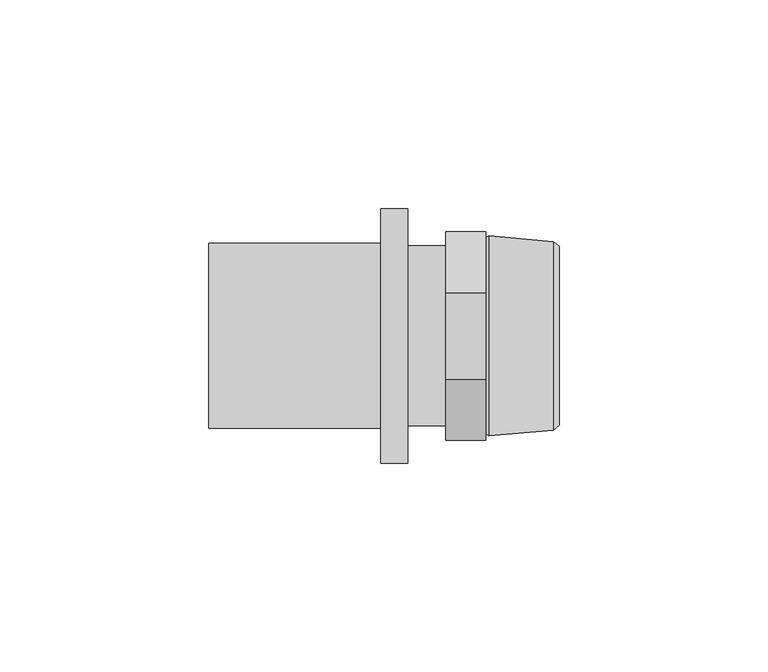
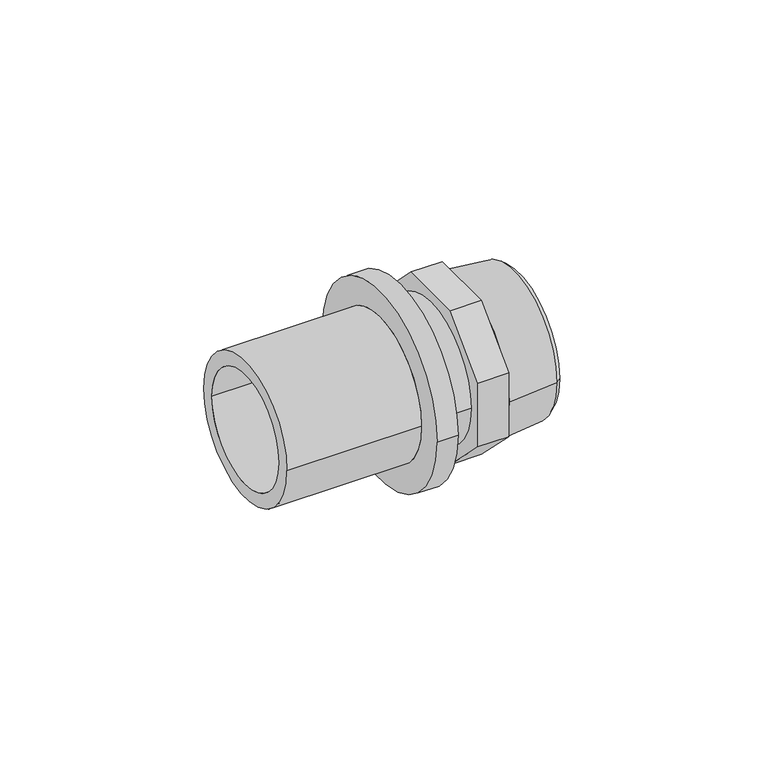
"""IFC4 building model written with IfcOpenShell, lengths in millimetres: pipe fitting geometry, REHAU_RAUTITAN_Adaptor_RX+ stabil, with external thread : REHAU_RAUTITAN_Adaptor_RX+ stabil, with external thread."""

from ifc_helpers import new_model, si_unit, point, frame, origin, origin_2d, place, context, project, spatial, polyline, circle_curve, trimmed, segment, composite_curve, outline, extrude, source, transform, mapped, element, save
from ifc_brep_helpers import plane_surface, cylinder_surface, revolved_surface, advanced_brep


def pipe_fitting_38a4c61e(model_context):
    return source(origin(), model_context, "Body", "SolidModel", [
        advanced_brep(
        [(-56.9, 17.75, 0.0), (-56.9, -17.75, 0.0), (0.0, -17.75, 0.0), (0.0, 17.75, 0.0), (-15.6, 22.15, 0.0), (-15.6, -22.15, 0.0), (-56.9, -22.15, 0.0), (-56.9, 22.15, 0.0), (-9.2, 30.5, 0.0), (-9.2, -30.5, 0.0), (-15.6, -30.5, 0.0), (-15.6, 30.5, 0.0), (0.0, 21.55, 0.0), (0.0, -21.55, 0.0), (-9.2, -21.55, 0.0), (-9.2, 21.55, 0.0)],
        [
            (0, 1, circle_curve(frame((-56.9, 0.0, 0.0), z_axis=(-1.0, 0.0, 0.0), x_axis=(0.0, -1.0, 0.0)), 17.75)),
            (1, 2),
            (2, 3, circle_curve(frame((0.0, 0.0, 0.0), z_axis=(1.0, 0.0, 0.0), x_axis=(0.0, -1.0, 0.0)), 17.75)),
            (3, 0),
            (4, 5, circle_curve(frame((-15.6, 0.0, 0.0), z_axis=(-1.0, 0.0, 0.0), x_axis=(0.0, -1.0, 0.0)), 22.15)),
            (5, 6),
            (6, 7, circle_curve(frame((-56.9, 0.0, 0.0), z_axis=(1.0, 0.0, 0.0), x_axis=(0.0, -1.0, 0.0)), 22.15)),
            (7, 4),
            (8, 9, circle_curve(frame((-9.2, 0.0, 0.0), z_axis=(-1.0, 0.0, 0.0), x_axis=(0.0, -1.0, 0.0)), 30.5)),
            (9, 10),
            (10, 11, circle_curve(frame((-15.6, 0.0, 0.0), z_axis=(1.0, 0.0, 0.0), x_axis=(0.0, -1.0, 0.0)), 30.5)),
            (11, 8),
            (12, 13, circle_curve(frame((0.0, 0.0, 0.0), z_axis=(-1.0, 0.0, 0.0), x_axis=(0.0, -1.0, 0.0)), 21.55)),
            (13, 14),
            (14, 15, circle_curve(frame((-9.2, 0.0, 0.0), z_axis=(1.0, 0.0, 0.0), x_axis=(0.0, -1.0, 0.0)), 21.55)),
            (15, 12),
            (12, 13, circle_curve(frame((0.0, 0.0, 0.0), z_axis=(1.0, 0.0, 0.0), x_axis=(0.0, 1.0, 0.0)), 21.55)),
            (2, 3, circle_curve(frame((0.0, 0.0, 0.0), z_axis=(-1.0, 0.0, 0.0), x_axis=(0.0, 1.0, 0.0)), 17.75)),
            (1, 0, circle_curve(frame((-56.9, 0.0, 0.0), z_axis=(-1.0, 0.0, 0.0), x_axis=(0.0, 1.0, 0.0)), 17.75)),
            (6, 7, circle_curve(frame((-56.9, 0.0, 0.0), z_axis=(-1.0, 0.0, 0.0), x_axis=(0.0, 1.0, 0.0)), 22.15)),
            (5, 4, circle_curve(frame((-15.6, 0.0, 0.0), z_axis=(-1.0, 0.0, 0.0), x_axis=(0.0, 1.0, 0.0)), 22.15)),
            (10, 11, circle_curve(frame((-15.6, 0.0, 0.0), z_axis=(-1.0, 0.0, 0.0), x_axis=(0.0, 1.0, 0.0)), 30.5)),
            (9, 8, circle_curve(frame((-9.2, 0.0, 0.0), z_axis=(-1.0, 0.0, 0.0), x_axis=(0.0, 1.0, 0.0)), 30.5)),
            (14, 15, circle_curve(frame((-9.2, 0.0, 0.0), z_axis=(-1.0, 0.0, 0.0), x_axis=(0.0, 1.0, 0.0)), 21.55)),
        ],
        [
            revolved_surface(polyline([(0.0, -17.75, 0.0), (-56.9, -17.75, 0.0)]), (0.0, 0.0, 0.0), (1.0, 0.0, 0.0)),
            cylinder_surface(frame((0.0, 0.0, 0.0), z_axis=(1.0, 0.0, 0.0), x_axis=(0.0, -1.0, 0.0)), 22.15),
            cylinder_surface(frame((0.0, 0.0, 0.0), z_axis=(1.0, 0.0, 0.0), x_axis=(0.0, -1.0, 0.0)), 30.5),
            cylinder_surface(frame((0.0, 0.0, 0.0), z_axis=(1.0, 0.0, 0.0), x_axis=(0.0, -1.0, 0.0)), 21.55),
            plane_surface(frame((0.0, 0.0, 0.0), z_axis=(1.0, 0.0, 0.0), x_axis=(0.0, 1.0, 0.0))),
            revolved_surface(polyline([(0.0, 17.75, 0.0), (-56.9, 17.75, 0.0)]), (0.0, 0.0, 0.0), (1.0, 0.0, 0.0)),
            plane_surface(frame((-56.9, 0.0, 0.0), z_axis=(-1.0, 0.0, 0.0), x_axis=(0.0, 1.0, 0.0))),
            cylinder_surface(frame((0.0, 0.0, 0.0), z_axis=(1.0, 0.0, 0.0), x_axis=(0.0, 1.0, 0.0)), 22.15),
            plane_surface(frame((-15.6, 0.0, 0.0), z_axis=(-1.0, 0.0, 0.0), x_axis=(0.0, 1.0, 0.0))),
            cylinder_surface(frame((0.0, 0.0, 0.0), z_axis=(1.0, 0.0, 0.0), x_axis=(0.0, 1.0, 0.0)), 30.5),
            plane_surface(frame((-9.2, 0.0, 0.0), z_axis=(1.0, 0.0, 0.0), x_axis=(0.0, 1.0, 0.0))),
            cylinder_surface(frame((0.0, 0.0, 0.0), z_axis=(1.0, 0.0, 0.0), x_axis=(0.0, 1.0, 0.0)), 21.55),
        ],
        [
            (0, [[1, 2, 3, 4]]),
            (1, [[5, 6, 7, 8]]),
            (2, [[9, 10, 11, 12]]),
            (3, [[13, 14, 15, 16]]),
            (4, [[17, -13], [18, -3]]),
            (5, [[19, -4, -18, -2]]),
            (6, [[20, -7], [-19, -1]]),
            (7, [[21, -8, -20, -6]]),
            (8, [[22, -11], [-21, -5]]),
            (9, [[23, -12, -22, -10]]),
            (10, [[-23, -9], [24, -15]]),
            (11, [[-17, -16, -24, -14]]),
        ],
    ),
        extrude(outline(polyline([(-10.3553391, -25.0), (-25.0, -10.3553391), (-25.0, 10.3553391), (-10.3553391, 25.0), (10.3553391, 25.0), (25.0, 10.3553391), (25.0, -10.3553391), (10.3553391, -25.0), (-10.3553391, -25.0)]), holes=[composite_curve([segment(trimmed(circle_curve(origin_2d(), 17.75), [point((-17.75, 0.0))], [point((17.75, 0.0))], True, "CARTESIAN"), True, "CONTINUOUS"), segment(trimmed(circle_curve(origin_2d(), 17.75), [point((17.75, 0.0))], [point((-17.75, 0.0))], True, "CARTESIAN"), True, "CONTINUOUS")], self_intersect=False)]), frame((0.0, 0.0, 0.0), z_axis=(1.0, 0.0, 0.0), x_axis=(0.0, 1.0, 0.0)), (0.0, 0.0, 1.0), 9.5),
        advanced_brep(
        [(10.6032803, 18.75, 0.0), (10.6032803, -18.75, 0.0), (27.2, -18.75, 0.0), (27.2, 18.75, 0.0), (9.5, 17.6467197, 0.0), (9.5, -17.6467197, 0.0), (10.2406902, 24.0, 0.0), (10.2406902, -24.0, 0.0), (9.5, -23.5, 0.0), (9.5, 23.5, 0.0), (25.7000007, 22.6, 0.0), (25.7000007, -22.6, 0.0), (27.2, 21.45, 0.0), (27.2, -21.45, 0.0)],
        [
            (0, 1, circle_curve(frame((10.6032803, 0.0, 0.0), z_axis=(-1.0, 0.0, 0.0), x_axis=(0.0, -1.0, 0.0)), 18.75)),
            (1, 2),
            (2, 3, circle_curve(frame((27.2, 0.0, 0.0), z_axis=(1.0, 0.0, 0.0), x_axis=(0.0, -1.0, 0.0)), 18.75)),
            (3, 0),
            (4, 5, circle_curve(frame((9.5, 0.0, 0.0), z_axis=(-1.0, 0.0, 0.0), x_axis=(0.0, -1.0, 0.0)), 17.6467197)),
            (5, 1),
            (0, 4),
            (6, 7, circle_curve(frame((10.2406902, 0.0, 0.0), z_axis=(-1.0, 0.0, 0.0), x_axis=(0.0, -1.0, 0.0)), 24.0)),
            (7, 8),
            (8, 9, circle_curve(frame((9.5, 0.0, 0.0), z_axis=(1.0, 0.0, 0.0), x_axis=(0.0, -1.0, 0.0)), 23.5)),
            (9, 6),
            (10, 11, circle_curve(frame((25.7000007, 0.0, 0.0), z_axis=(-1.0, 0.0, 0.0), x_axis=(0.0, -1.0, 0.0)), 22.6)),
            (11, 7),
            (6, 10),
            (12, 13, circle_curve(frame((27.2, 0.0, 0.0), z_axis=(-1.0, 0.0, 0.0), x_axis=(0.0, -1.0, 0.0)), 21.45)),
            (13, 11),
            (10, 12),
            (1, 0, circle_curve(frame((10.6032803, 0.0, 0.0), z_axis=(-1.0, 0.0, 0.0), x_axis=(0.0, 1.0, 0.0)), 18.75)),
            (3, 2, circle_curve(frame((27.2, 0.0, 0.0), z_axis=(1.0, 0.0, 0.0), x_axis=(0.0, 1.0, 0.0)), 18.75)),
            (5, 4, circle_curve(frame((9.5, 0.0, 0.0), z_axis=(-1.0, 0.0, 0.0), x_axis=(0.0, 1.0, 0.0)), 17.6467197)),
            (8, 9, circle_curve(frame((9.5, 0.0, 0.0), z_axis=(-1.0, 0.0, 0.0), x_axis=(0.0, 1.0, 0.0)), 23.5)),
            (7, 6, circle_curve(frame((10.2406902, 0.0, 0.0), z_axis=(-1.0, 0.0, 0.0), x_axis=(0.0, 1.0, 0.0)), 24.0)),
            (11, 10, circle_curve(frame((25.7000007, 0.0, 0.0), z_axis=(-1.0, 0.0, 0.0), x_axis=(0.0, 1.0, 0.0)), 22.6)),
            (13, 12, circle_curve(frame((27.2, 0.0, 0.0), z_axis=(-1.0, 0.0, 0.0), x_axis=(0.0, 1.0, 0.0)), 21.45)),
        ],
        [
            revolved_surface(polyline([(27.2, -18.75, 0.0), (10.6032803, -18.75, 0.0)]), (0.0, 0.0, 0.0), (1.0, 0.0, 0.0)),
            revolved_surface(polyline([(10.6032803, -18.75, 0.0), (9.5, -17.6467197, 0.0)]), (0.0, 0.0, 0.0), (1.0, 0.0, 0.0)),
            revolved_surface(polyline([(9.5, -23.5, 0.0), (10.2406902, -24.0, 0.0)]), (0.0, 0.0, 0.0), (1.0, 0.0, 0.0)),
            revolved_surface(polyline([(10.2406902, -24.0, 0.0), (25.7000007, -22.6, 0.0)]), (0.0, 0.0, 0.0), (1.0, 0.0, 0.0)),
            revolved_surface(polyline([(25.7000007, -22.6, 0.0), (27.2, -21.45, 0.0)]), (0.0, 0.0, 0.0), (1.0, 0.0, 0.0)),
            revolved_surface(polyline([(27.2, 18.75, 0.0), (10.6032803, 18.75, 0.0)]), (0.0, 0.0, 0.0), (1.0, 0.0, 0.0)),
            revolved_surface(polyline([(10.6032803, 18.75, 0.0), (9.5, 17.6467197, 0.0)]), (0.0, 0.0, 0.0), (1.0, 0.0, 0.0)),
            plane_surface(frame((9.5, 0.0, 0.0), z_axis=(-1.0, 0.0, 0.0), x_axis=(0.0, 1.0, 0.0))),
            revolved_surface(polyline([(9.5, 23.5, 0.0), (10.2406902, 24.0, 0.0)]), (0.0, 0.0, 0.0), (1.0, 0.0, 0.0)),
            revolved_surface(polyline([(10.2406902, 24.0, 0.0), (25.7000007, 22.6, 0.0)]), (0.0, 0.0, 0.0), (1.0, 0.0, 0.0)),
            revolved_surface(polyline([(25.7000007, 22.6, 0.0), (27.2, 21.45, 0.0)]), (0.0, 0.0, 0.0), (1.0, 0.0, 0.0)),
            plane_surface(frame((27.2, 0.0, 0.0), z_axis=(1.0, 0.0, 0.0), x_axis=(0.0, 1.0, 0.0))),
        ],
        [
            (0, [[1, 2, 3, 4]]),
            (1, [[5, 6, -1, 7]]),
            (2, [[8, 9, 10, 11]]),
            (3, [[12, 13, -8, 14]]),
            (4, [[15, 16, -12, 17]]),
            (5, [[18, -4, 19, -2]]),
            (6, [[20, -7, -18, -6]]),
            (7, [[21, -10], [-20, -5]]),
            (8, [[22, -11, -21, -9]]),
            (9, [[23, -14, -22, -13]]),
            (10, [[24, -17, -23, -16]]),
            (11, [[-24, -15], [-19, -3]]),
        ],
    ),
    ])


if __name__ == "__main__":
    model = new_model("IFC4")
    model_context = context("Model", 3, world=origin())
    ifc_project = project(units=[si_unit("LENGTHUNIT", "METRE", prefix="MILLI")], contexts=[model_context])
    site = spatial("IfcSite", under=ifc_project)
    building = spatial("IfcBuilding", under=site)
    placement = place(None, origin())
    pipe_fitting_shape = pipe_fitting_38a4c61e(model_context)
    element("IfcPipeFitting", 1, ObjectType="REHAU_RAUTITAN_Adaptor_RX+ stabil, with external thread : REHAU_RAUTITAN_Adaptor_RX+ stabil, with external thread", at=placement, inside=building, context=model_context, shape_type="MappedRepresentation", body=[
        mapped(pipe_fitting_shape, transform((0.0, 0.0, 0.0), x_axis=(1.0, 0.0, 0.0), y_axis=(0.0, 1.0, 0.0), z_axis=(0.0, 0.0, 1.0))),
    ])
    save(model, "model.ifc")
